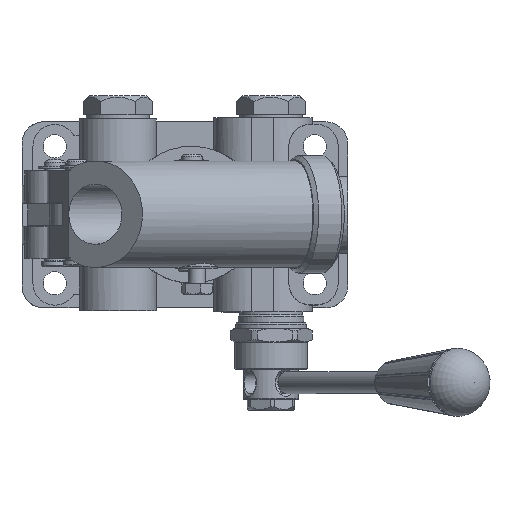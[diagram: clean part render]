
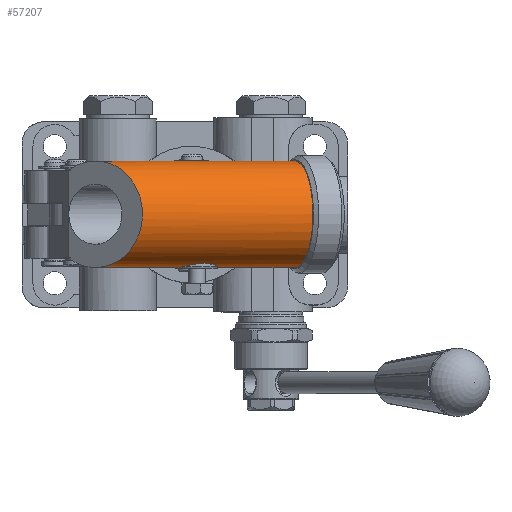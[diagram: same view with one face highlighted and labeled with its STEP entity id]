
A CAD part, top view. The second image highlights one B-rep face of the part: STEP entity #57207.
In plain terms, the highlighted cylindrical face has radius 19.48 mm (diameter 38.961 mm), a partial arc.
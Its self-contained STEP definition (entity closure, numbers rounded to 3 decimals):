
#46=ELLIPSE('',#60327,20.731,19.481);
#47=ELLIPSE('',#60332,20.731,19.481);
#48=ELLIPSE('',#60335,20.731,19.481);
#49=ELLIPSE('',#60338,22.494,19.481);
#50=ELLIPSE('',#60341,20.731,19.481);
#413=B_SPLINE_CURVE_WITH_KNOTS('',3,(#86400,#86401,#86402,#86403,#86404,
#86405),.UNSPECIFIED.,.F.,.F.,(4,1,1,4),(0.039,0.043,
0.045,0.047),.UNSPECIFIED.);
#414=B_SPLINE_CURVE_WITH_KNOTS('',3,(#86407,#86408,#86409,#86410,#86411),
 .UNSPECIFIED.,.F.,.F.,(4,1,4),(0.,0.004,0.009),
 .UNSPECIFIED.);
#415=B_SPLINE_CURVE_WITH_KNOTS('',3,(#86415,#86416,#86417,#86418,#86419),
 .UNSPECIFIED.,.F.,.F.,(4,1,4),(0.032,0.035,0.039),
 .UNSPECIFIED.);
#416=B_SPLINE_CURVE_WITH_KNOTS('',3,(#86421,#86422,#86423,#86424,#86425,
#86426,#86427),.UNSPECIFIED.,.F.,.F.,(4,1,1,1,4),(0.015,0.019,
0.024,0.028,0.032),.UNSPECIFIED.);
#417=B_SPLINE_CURVE_WITH_KNOTS('',3,(#86429,#86430,#86431,#86432,#86433),
 .UNSPECIFIED.,.F.,.F.,(4,1,4),(0.009,0.012,
0.015),.UNSPECIFIED.);
#5120=LINE('',#86367,#9837);
#5121=LINE('',#86368,#9838);
#5125=LINE('',#86378,#9842);
#5126=LINE('',#86380,#9843);
#5128=LINE('',#86386,#9845);
#5129=LINE('',#86390,#9846);
#5132=LINE('',#86398,#9849);
#9837=VECTOR('',#71235,1000.);
#9838=VECTOR('',#71236,1000.);
#9842=VECTOR('',#71246,1000.);
#9843=VECTOR('',#71247,1000.);
#9845=VECTOR('',#71255,1000.);
#9846=VECTOR('',#71262,1000.);
#9849=VECTOR('',#71271,1000.);
#10202=CYLINDRICAL_SURFACE('',#60345,19.481);
#21951=ORIENTED_EDGE('',*,*,#27921,.F.);
#21952=ORIENTED_EDGE('',*,*,#27920,.T.);
#21953=ORIENTED_EDGE('',*,*,#27917,.T.);
#21954=ORIENTED_EDGE('',*,*,#27916,.T.);
#21955=ORIENTED_EDGE('',*,*,#27915,.F.);
#21956=ORIENTED_EDGE('',*,*,#27913,.T.);
#21957=ORIENTED_EDGE('',*,*,#27912,.F.);
#21958=ORIENTED_EDGE('',*,*,#27922,.F.);
#21959=ORIENTED_EDGE('',*,*,#27925,.F.);
#21960=ORIENTED_EDGE('',*,*,#27926,.F.);
#21961=ORIENTED_EDGE('',*,*,#27927,.F.);
#21962=ORIENTED_EDGE('',*,*,#27923,.F.);
#21963=ORIENTED_EDGE('',*,*,#27911,.F.);
#21964=ORIENTED_EDGE('',*,*,#27909,.F.);
#21965=ORIENTED_EDGE('',*,*,#27906,.T.);
#21966=ORIENTED_EDGE('',*,*,#27903,.T.);
#21967=ORIENTED_EDGE('',*,*,#27905,.T.);
#21968=ORIENTED_EDGE('',*,*,#27901,.F.);
#27901=EDGE_CURVE('',#31902,#31903,#46,.T.);
#27903=EDGE_CURVE('',#31904,#31905,#32823,.T.);
#27905=EDGE_CURVE('',#31905,#31903,#5120,.F.);
#27906=EDGE_CURVE('',#31906,#31904,#5121,.T.);
#27909=EDGE_CURVE('',#31906,#31907,#47,.T.);
#27911=EDGE_CURVE('',#31907,#31909,#5125,.F.);
#27912=EDGE_CURVE('',#31909,#31908,#5126,.F.);
#27913=EDGE_CURVE('',#31910,#31908,#48,.T.);
#27915=EDGE_CURVE('',#31910,#31883,#5128,.F.);
#27916=EDGE_CURVE('',#31884,#31883,#49,.T.);
#27917=EDGE_CURVE('',#31911,#31884,#5129,.F.);
#27920=EDGE_CURVE('',#31912,#31911,#50,.T.);
#27921=EDGE_CURVE('',#31912,#31902,#5132,.T.);
#27922=EDGE_CURVE('',#31913,#31909,#413,.T.);
#27923=EDGE_CURVE('',#31909,#31914,#414,.T.);
#27925=EDGE_CURVE('',#31915,#31913,#415,.T.);
#27926=EDGE_CURVE('',#31916,#31915,#416,.T.);
#27927=EDGE_CURVE('',#31914,#31916,#417,.T.);
#31883=VERTEX_POINT('',#86298);
#31884=VERTEX_POINT('',#86300);
#31902=VERTEX_POINT('',#86357);
#31903=VERTEX_POINT('',#86359);
#31904=VERTEX_POINT('',#86363);
#31905=VERTEX_POINT('',#86364);
#31906=VERTEX_POINT('',#86369);
#31907=VERTEX_POINT('',#86373);
#31908=VERTEX_POINT('',#86377);
#31909=VERTEX_POINT('',#86379);
#31910=VERTEX_POINT('',#86383);
#31911=VERTEX_POINT('',#86391);
#31912=VERTEX_POINT('',#86395);
#31913=VERTEX_POINT('',#86406);
#31914=VERTEX_POINT('',#86412);
#31915=VERTEX_POINT('',#86420);
#31916=VERTEX_POINT('',#86428);
#32823=CIRCLE('',#60329,19.481);
#35861=EDGE_LOOP('',(#21951,#21952,#21953,#21954,#21955,#21956,#21957,#21958,
#21959,#21960,#21961,#21962,#21963,#21964,#21965,#21966,#21967,#21968));
#38916=FACE_BOUND('',#35861,.T.);
#57207=ADVANCED_FACE('',(#38916),#10202,.T.);
#60327=AXIS2_PLACEMENT_3D('',#86358,#71225,#71226);
#60329=AXIS2_PLACEMENT_3D('',#86362,#71230,#71231);
#60332=AXIS2_PLACEMENT_3D('',#86374,#71241,#71242);
#60335=AXIS2_PLACEMENT_3D('',#86382,#71250,#71251);
#60338=AXIS2_PLACEMENT_3D('',#86388,#71258,#71259);
#60341=AXIS2_PLACEMENT_3D('',#86396,#71267,#71268);
#60345=AXIS2_PLACEMENT_3D('',#86414,#71276,#71277);
#71225=DIRECTION('',(-0.767,0.,0.642));
#71226=DIRECTION('',(0.642,0.,0.767));
#71230=DIRECTION('',(-0.94,0.,0.341));
#71231=DIRECTION('',(0.341,0.,0.94));
#71235=DIRECTION('',(0.94,0.,-0.341));
#71236=DIRECTION('',(0.94,0.,-0.341));
#71241=DIRECTION('',(-0.767,0.,0.642));
#71242=DIRECTION('',(0.642,0.,0.767));
#71246=DIRECTION('',(0.94,0.,-0.341));
#71247=DIRECTION('',(0.94,0.,-0.341));
#71250=DIRECTION('',(-1.,0.,-0.001));
#71251=DIRECTION('',(0.001,0.,-1.));
#71255=DIRECTION('',(0.94,0.,-0.341));
#71258=DIRECTION('',(0.644,0.,-0.765));
#71259=DIRECTION('',(0.765,0.,0.644));
#71262=DIRECTION('',(0.94,0.,-0.341));
#71267=DIRECTION('',(-1.,0.,-0.001));
#71268=DIRECTION('',(0.001,0.,-1.));
#71271=DIRECTION('',(0.94,0.,-0.341));
#71276=DIRECTION('',(0.94,0.,-0.341));
#71277=DIRECTION('',(-0.341,0.,-0.94));
#86298=CARTESIAN_POINT('',(-45.028,-15.984,138.404));
#86300=CARTESIAN_POINT('',(-45.028,15.984,138.404));
#86357=CARTESIAN_POINT('',(34.048,17.982,113.613));
#86358=CARTESIAN_POINT('',(39.166,0.,119.728));
#86359=CARTESIAN_POINT('',(26.884,7.492,105.053));
#86362=CARTESIAN_POINT('',(37.659,0.,120.274));
#86363=CARTESIAN_POINT('',(31.531,-7.493,103.368));
#86364=CARTESIAN_POINT('',(31.531,7.492,103.368));
#86367=CARTESIAN_POINT('',(-47.361,7.492,131.967));
#86368=CARTESIAN_POINT('',(-47.361,-7.493,131.967));
#86369=CARTESIAN_POINT('',(26.884,-7.493,105.053));
#86373=CARTESIAN_POINT('',(34.048,-17.982,113.613));
#86374=CARTESIAN_POINT('',(39.166,0.,119.728));
#86377=CARTESIAN_POINT('',(-14.09,-17.982,131.064));
#86378=CARTESIAN_POINT('',(-43.786,-17.982,141.829));
#86379=CARTESIAN_POINT('',(-0.583,-17.982,126.167));
#86380=CARTESIAN_POINT('',(-43.786,-17.982,141.829));
#86382=CARTESIAN_POINT('',(-14.1,0.,139.037));
#86383=CARTESIAN_POINT('',(-14.085,-15.984,127.187));
#86386=CARTESIAN_POINT('',(-45.028,-15.984,138.404));
#86388=CARTESIAN_POINT('',(-35.189,0.,146.682));
#86390=CARTESIAN_POINT('',(-45.028,15.984,138.404));
#86391=CARTESIAN_POINT('',(-14.085,15.984,127.187));
#86395=CARTESIAN_POINT('',(-14.09,17.982,131.064));
#86396=CARTESIAN_POINT('',(-14.1,0.,139.037));
#86398=CARTESIAN_POINT('',(-43.786,17.982,141.829));
#86400=CARTESIAN_POINT('',(-5.498,-19.231,132.611));
#86401=CARTESIAN_POINT('',(-5.384,-19.021,131.189));
#86402=CARTESIAN_POINT('',(-4.596,-18.538,129.127));
#86403=CARTESIAN_POINT('',(-2.534,-18.071,127.097));
#86404=CARTESIAN_POINT('',(-1.27,-17.982,126.416));
#86405=CARTESIAN_POINT('',(-0.583,-17.982,126.167));
#86406=CARTESIAN_POINT('',(-5.498,-19.231,132.611));
#86407=CARTESIAN_POINT('',(-0.583,-17.982,126.167));
#86408=CARTESIAN_POINT('',(0.788,-17.982,125.67));
#86409=CARTESIAN_POINT('',(3.747,-18.372,125.509));
#86410=CARTESIAN_POINT('',(6.325,-19.022,126.951));
#86411=CARTESIAN_POINT('',(7.319,-19.231,127.965));
#86412=CARTESIAN_POINT('',(7.319,-19.231,127.965));
#86414=CARTESIAN_POINT('',(-41.233,0.,148.873));
#86415=CARTESIAN_POINT('',(-3.379,-19.231,138.458));
#86416=CARTESIAN_POINT('',(-4.127,-19.388,137.695));
#86417=CARTESIAN_POINT('',(-5.292,-19.574,135.848));
#86418=CARTESIAN_POINT('',(-5.583,-19.387,133.668));
#86419=CARTESIAN_POINT('',(-5.498,-19.231,132.611));
#86420=CARTESIAN_POINT('',(-3.379,-19.231,138.458));
#86421=CARTESIAN_POINT('',(9.439,-19.231,133.811));
#86422=CARTESIAN_POINT('',(9.324,-19.02,135.243));
#86423=CARTESIAN_POINT('',(8.282,-18.374,137.969));
#86424=CARTESIAN_POINT('',(4.678,-17.786,140.661));
#86425=CARTESIAN_POINT('',(0.173,-18.373,140.911));
#86426=CARTESIAN_POINT('',(-2.372,-19.019,139.484));
#86427=CARTESIAN_POINT('',(-3.379,-19.231,138.458));
#86428=CARTESIAN_POINT('',(9.439,-19.231,133.811));
#86429=CARTESIAN_POINT('',(7.319,-19.231,127.965));
#86430=CARTESIAN_POINT('',(8.058,-19.386,128.718));
#86431=CARTESIAN_POINT('',(9.234,-19.574,130.573));
#86432=CARTESIAN_POINT('',(9.524,-19.388,132.748));
#86433=CARTESIAN_POINT('',(9.439,-19.231,133.811));
